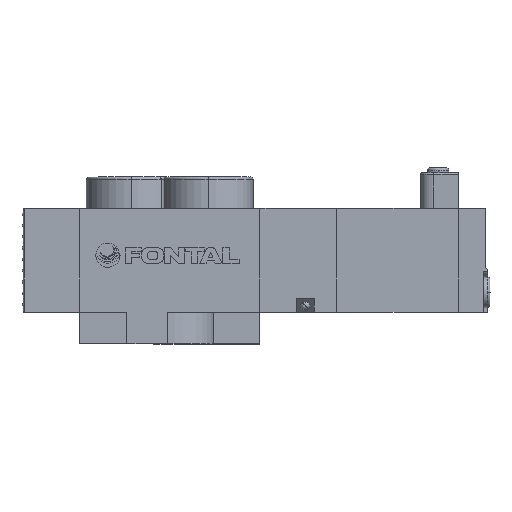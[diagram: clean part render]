
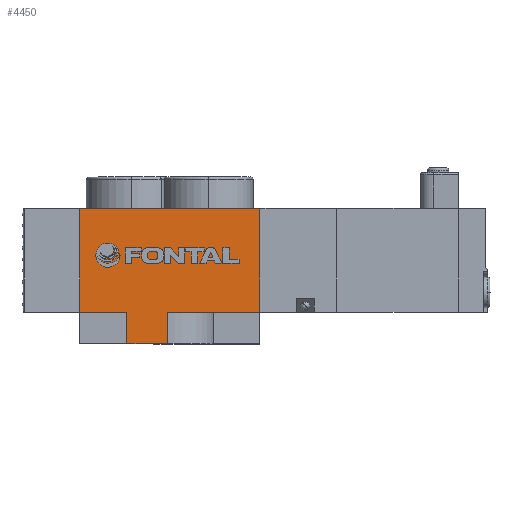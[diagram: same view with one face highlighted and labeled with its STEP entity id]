
A CAD part, top view. The second image highlights one B-rep face of the part: STEP entity #4450.
In plain terms, the highlighted planar face has unit normal (0, 0, 1).
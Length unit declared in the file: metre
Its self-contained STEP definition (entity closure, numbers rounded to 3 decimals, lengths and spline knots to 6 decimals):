
#431 = DIRECTION ( 'NONE',  ( 0., 1., 0. ) ) ;
#588 = LINE ( 'NONE', #3547, #11309 ) ;
#1068 = CARTESIAN_POINT ( 'NONE',  ( -0.0095, 0.0215, 0.0135 ) ) ;
#1146 = VERTEX_POINT ( 'NONE', #2626 ) ;
#1168 = EDGE_CURVE ( 'NONE', #11568, #9942, #1483, .T. ) ;
#1176 = ORIENTED_EDGE ( 'NONE', *, *, #9552, .F. ) ;
#1394 = ORIENTED_EDGE ( 'NONE', *, *, #2417, .T. ) ;
#1483 = LINE ( 'NONE', #7949, #9299 ) ;
#1730 = CARTESIAN_POINT ( 'NONE',  ( 0., 0.0445, 0.0135 ) ) ;
#1911 = CARTESIAN_POINT ( 'NONE',  ( 0.02, 0.0445, 0.0135 ) ) ;
#2051 = ORIENTED_EDGE ( 'NONE', *, *, #1168, .F. ) ;
#2066 = VECTOR ( 'NONE', #431, 1. ) ;
#2305 = EDGE_LOOP ( 'NONE', ( #1176, #1394, #6184, #2051, #12520, #4843, #5700, #9185 ) ) ;
#2417 = EDGE_CURVE ( 'NONE', #13371, #1146, #7510, .T. ) ;
#2626 = CARTESIAN_POINT ( 'NONE',  ( -0.0005, 0.0145, 0.0135 ) ) ;
#2889 = DIRECTION ( 'NONE',  ( 0., -1., 0. ) ) ;
#3368 = LINE ( 'NONE', #10382, #6177 ) ;
#3541 = LINE ( 'NONE', #1730, #5994 ) ;
#3547 = CARTESIAN_POINT ( 'NONE',  ( 0.02, 0.0295, 0.0135 ) ) ;
#3599 = CARTESIAN_POINT ( 'NONE',  ( 0., 0.0215, 0.0135 ) ) ;
#3790 = DIRECTION ( 'NONE',  ( -1., 0., 0. ) ) ;
#4084 = VERTEX_POINT ( 'NONE', #1068 ) ;
#4129 = CARTESIAN_POINT ( 'NONE',  ( -0.0005, 0.0215, 0.0135 ) ) ;
#4450 = ADVANCED_FACE ( 'NONE', ( #7486 ), #8298, .F. ) ;
#4713 = CARTESIAN_POINT ( 'NONE',  ( -0.02, 0.0445, 0.0135 ) ) ;
#4763 = DIRECTION ( 'NONE',  ( -1., 0., 0. ) ) ;
#4776 = DIRECTION ( 'NONE',  ( 0., 1., 0. ) ) ;
#4843 = ORIENTED_EDGE ( 'NONE', *, *, #12574, .T. ) ;
#5698 = CARTESIAN_POINT ( 'NONE',  ( -0.0095, 0.0295, 0.0135 ) ) ;
#5700 = ORIENTED_EDGE ( 'NONE', *, *, #12297, .T. ) ;
#5815 = CARTESIAN_POINT ( 'NONE',  ( 0., 0.0145, 0.0135 ) ) ;
#5994 = VECTOR ( 'NONE', #3790, 1. ) ;
#6177 = VECTOR ( 'NONE', #2889, 1. ) ;
#6184 = ORIENTED_EDGE ( 'NONE', *, *, #10582, .T. ) ;
#6527 = VECTOR ( 'NONE', #11126, 1. ) ;
#7486 = FACE_OUTER_BOUND ( 'NONE', #2305, .T. ) ;
#7510 = LINE ( 'NONE', #5815, #13546 ) ;
#7776 = VERTEX_POINT ( 'NONE', #4713 ) ;
#7949 = CARTESIAN_POINT ( 'NONE',  ( 0., 0.0215, 0.0135 ) ) ;
#8035 = CARTESIAN_POINT ( 'NONE',  ( -0.0005, 0.018, 0.0135 ) ) ;
#8048 = LINE ( 'NONE', #5698, #2066 ) ;
#8298 = PLANE ( 'NONE',  #11972 ) ;
#8341 = CARTESIAN_POINT ( 'NONE',  ( 0.02, 0.0145, 0.0135 ) ) ;
#8375 = EDGE_CURVE ( 'NONE', #11568, #12679, #588, .T. ) ;
#8389 = DIRECTION ( 'NONE',  ( 0., 0., -1. ) ) ;
#8413 = DIRECTION ( 'NONE',  ( -1., 0., 0. ) ) ;
#8869 = DIRECTION ( 'NONE',  ( 0., 1., 0. ) ) ;
#9185 = ORIENTED_EDGE ( 'NONE', *, *, #11667, .F. ) ;
#9299 = VECTOR ( 'NONE', #4763, 1. ) ;
#9337 = VERTEX_POINT ( 'NONE', #10392 ) ;
#9409 = LINE ( 'NONE', #3599, #6527 ) ;
#9552 = EDGE_CURVE ( 'NONE', #13371, #4084, #8048, .T. ) ;
#9942 = VERTEX_POINT ( 'NONE', #4129 ) ;
#9985 = CARTESIAN_POINT ( 'NONE',  ( -0.0095, 0.0145, 0.0135 ) ) ;
#10343 = DIRECTION ( 'NONE',  ( 1., 0., 0. ) ) ;
#10382 = CARTESIAN_POINT ( 'NONE',  ( -0.02, 0.0295, 0.0135 ) ) ;
#10392 = CARTESIAN_POINT ( 'NONE',  ( -0.02, 0.0215, 0.0135 ) ) ;
#10582 = EDGE_CURVE ( 'NONE', #1146, #9942, #11318, .T. ) ;
#11003 = VECTOR ( 'NONE', #8869, 1. ) ;
#11126 = DIRECTION ( 'NONE',  ( -1., 0., 0. ) ) ;
#11309 = VECTOR ( 'NONE', #4776, 1. ) ;
#11318 = LINE ( 'NONE', #8035, #11003 ) ;
#11568 = VERTEX_POINT ( 'NONE', #12041 ) ;
#11667 = EDGE_CURVE ( 'NONE', #4084, #9337, #9409, .T. ) ;
#11972 = AXIS2_PLACEMENT_3D ( 'NONE', #8341, #8389, #8413 ) ;
#12041 = CARTESIAN_POINT ( 'NONE',  ( 0.02, 0.0215, 0.0135 ) ) ;
#12297 = EDGE_CURVE ( 'NONE', #7776, #9337, #3368, .T. ) ;
#12520 = ORIENTED_EDGE ( 'NONE', *, *, #8375, .T. ) ;
#12574 = EDGE_CURVE ( 'NONE', #12679, #7776, #3541, .T. ) ;
#12679 = VERTEX_POINT ( 'NONE', #1911 ) ;
#13371 = VERTEX_POINT ( 'NONE', #9985 ) ;
#13546 = VECTOR ( 'NONE', #10343, 1. ) ;
